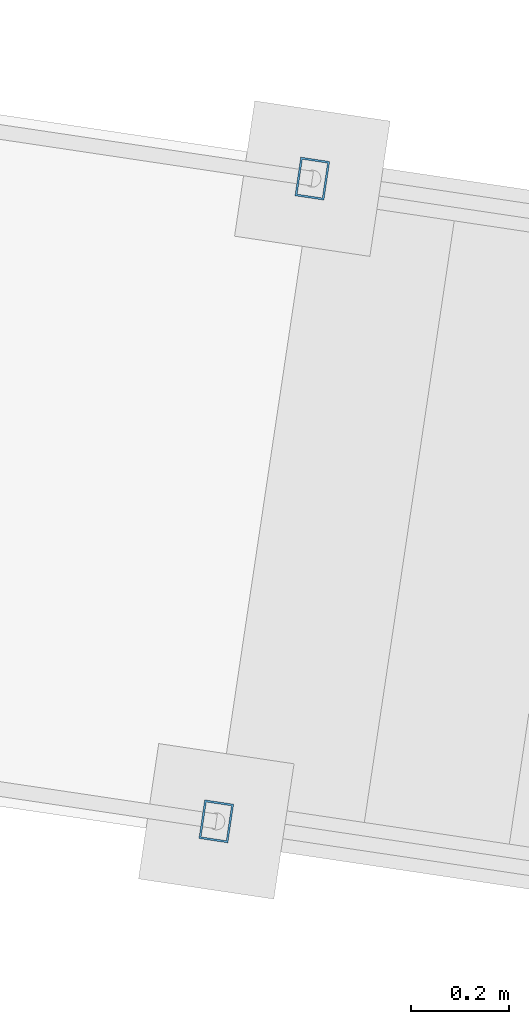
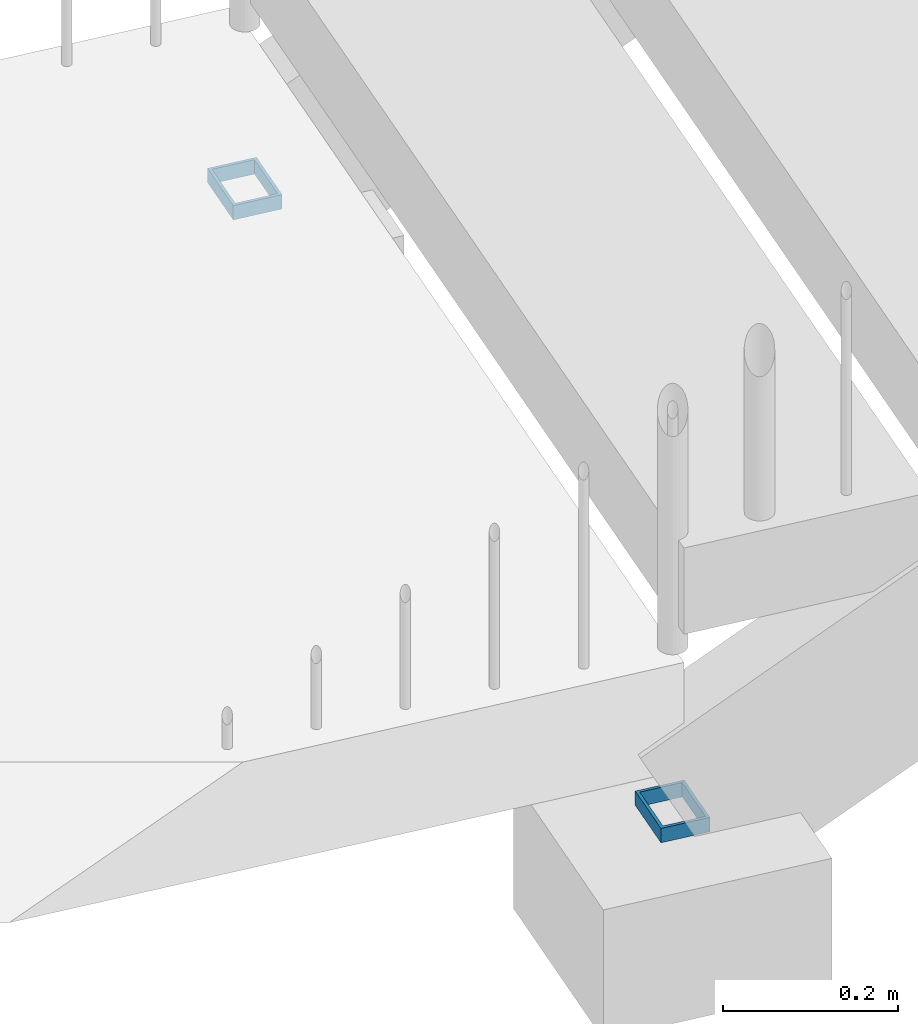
# One storey, part 6 of 142: 2 columns, 1 element without a shape of its own.
"""IFC4 building model written with IfcOpenShell, lengths in metres."""

from ifc_helpers import new_model, si_unit, direction, frame, origin_with_axes, place, context, subcontext, project, spatial, hollow_rectangle, extrude, material, material_profile, profile_set, profile_usage, type_object, element, aggregate, save


model = new_model("IFC4")

# Units and contexts
model_context = context("Model", 3, precision=1e-05, world=origin_with_axes(), true_north=direction((0.0, 1.0)))
body_context = subcontext(model_context, "Body", "Model", "MODEL_VIEW")
ifc_project = project(units=[si_unit("LENGTHUNIT", "METRE"), si_unit("AREAUNIT", "SQUARE_METRE"), si_unit("VOLUMEUNIT", "CUBIC_METRE")], contexts=[model_context])

# Site, building, storey
site_placement = place(None, origin_with_axes())
site = spatial("IfcSite", under=ifc_project, at=site_placement, Name="Lares · Rua das Mercês · artigo 4771")
building_placement = place(site_placement, frame((15.0, 9.7, 14.65), z_axis=(0.0, 0.0, 1.0), x_axis=(0.989015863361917, -0.147809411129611, 0.0)))
building = spatial("IfcBuilding", under=site, at=building_placement, Name="Casa Sobreposta")
storey_placement = place(building_placement, origin_with_axes())
storey = spatial("IfcBuildingStorey", under=building, at=storey_placement, Name="00 · Habitação e estacionamento", Elevation=14.65)

# Stair, columns
stair_placement = place(storey_placement, origin_with_axes())
stair = element("IfcStair", 1, at=stair_placement, inside=storey, Name="Jardim · escada pela fachada poente", PredefinedType="STRAIGHT_RUN_STAIR")
ifc_material = material(Name="Aço pintado / Stahl lackiert", Category="steel")
ifc_material_profile = material_profile(ifc_material, hollow_rectangle(XDim=0.06, YDim=0.08, WallThickness=0.004))
ifc_profile_set = profile_set([ifc_material_profile], Name="RHS80x60x4")
ifc_profile_usage_1 = profile_usage(ifc_profile_set)
column_type = type_object("IfcColumnType", Name="RHS80x60x4 / steel", PredefinedType="NOTDEFINED", material=ifc_profile_set)
column_1_placement = place(stair_placement, frame((-9.55, 0.435, -2.19), z_axis=(0.0, 0.0, 1.0), x_axis=(1.0, 0.0, 0.0)))
column_1 = element("IfcColumn", 2, at=column_1_placement, type_object=column_type, material=ifc_profile_usage_1, Name="Jardim · montante", context=body_context, shape_type="SweptSolid", body=[
    extrude(hollow_rectangle(XDim=0.06, YDim=0.08, WallThickness=0.004), origin_with_axes(), (0.0, 0.0, 1.0), 0.02),
])
ifc_profile_usage_2 = profile_usage(ifc_profile_set)
column_2_placement = place(stair_placement, frame((-9.55, 1.765, -2.19), z_axis=(0.0, 0.0, 1.0), x_axis=(1.0, 0.0, 0.0)))
column_2 = element("IfcColumn", 3, at=column_2_placement, type_object=column_type, material=ifc_profile_usage_2, Name="Jardim · montante", context=body_context, shape_type="SweptSolid", body=[
    extrude(hollow_rectangle(XDim=0.06, YDim=0.08, WallThickness=0.004), origin_with_axes(), (0.0, 0.0, 1.0), 0.02),
])
aggregate(stair, [column_1, column_2])

save(model, "model.ifc")
